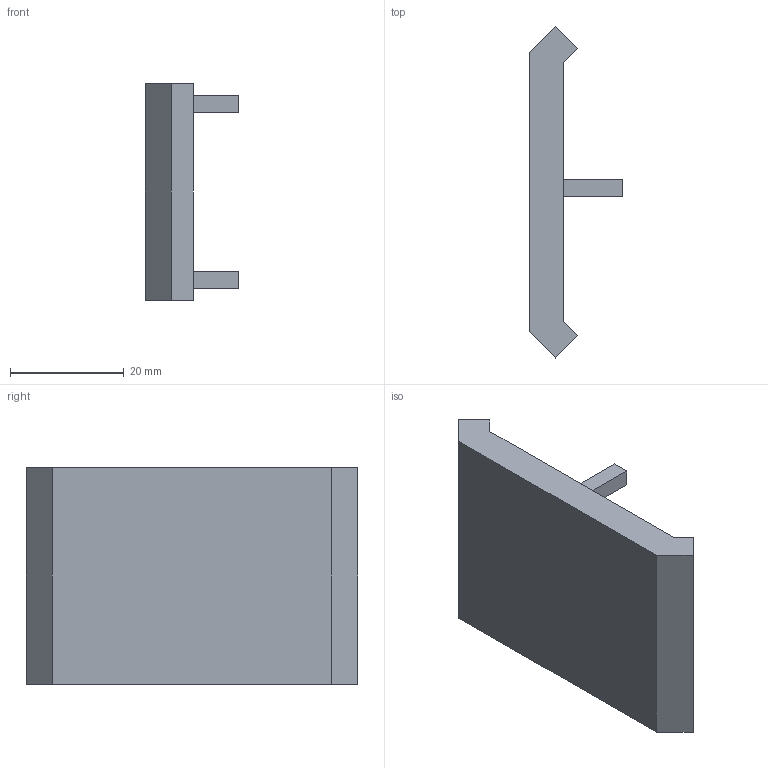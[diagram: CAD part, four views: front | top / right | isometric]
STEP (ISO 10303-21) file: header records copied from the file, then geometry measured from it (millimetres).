
FILE_DESCRIPTION (( 'STEP AP203' ), '1' );
FILE_NAME ('1038cap.STEP', '2016-03-22T14:57:52', ( '' ), ( '' ), 'SwSTEP 2.0', 'SolidWorks 2014', '' );
FILE_SCHEMA (( 'CONFIG_CONTROL_DESIGN' ));
Length unit declared in the file: millimetre
Products named in the file (1): 1038cap
Bounding box: 16.48 x 58.2 x 38 mm (x, y, z)
Volume: 7906 mm3; surface area: 6331.9 mm2
Topology: 1 solids, 1 shells, 27 faces, 72 edges, 48 vertices
Faces by surface type: plane 27
Entity records: 903 total; most frequent: CARTESIAN_POINT 148, ORIENTED_EDGE 144, DIRECTION 128, VECTOR 72, EDGE_CURVE 72, LINE 72, VERTEX_POINT 48, EDGE_LOOP 28
